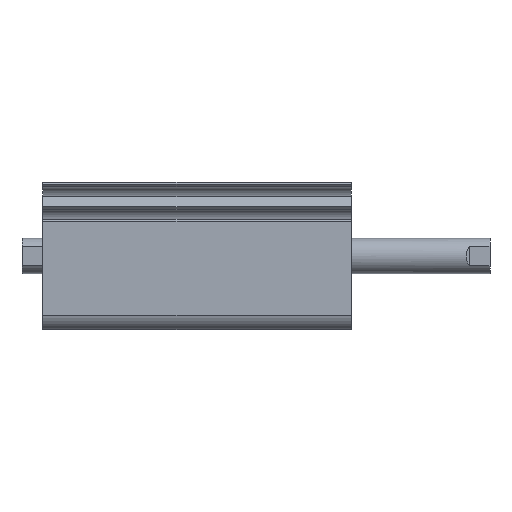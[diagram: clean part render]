
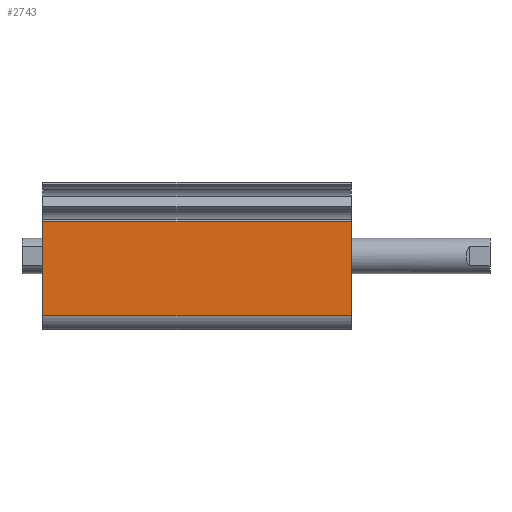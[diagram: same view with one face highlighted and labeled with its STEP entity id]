
A CAD part, top view. The second image highlights one B-rep face of the part: STEP entity #2743.
In plain terms, the highlighted planar face has unit normal (0, 0, 1).
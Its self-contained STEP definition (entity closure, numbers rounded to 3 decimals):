
#45 = DIRECTION ( 'NONE',  ( 0., -1., 0. ) ) ;
#47 = AXIS2_PLACEMENT_3D ( 'NONE', #159, #1156, #2176 ) ;
#159 = CARTESIAN_POINT ( 'NONE',  ( 52.4, 5.885, 12.5 ) ) ;
#162 = EDGE_CURVE ( 'NONE', #2933, #2564, #2795, .T. ) ;
#172 = CARTESIAN_POINT ( 'NONE',  ( 0., -10.069, 12.5 ) ) ;
#231 = CARTESIAN_POINT ( 'NONE',  ( 52.4, -10.069, 12.5 ) ) ;
#314 = EDGE_CURVE ( 'NONE', #2564, #1057, #648, .T. ) ;
#626 = DIRECTION ( 'NONE',  ( 0., -1., 0. ) ) ;
#648 = LINE ( 'NONE', #231, #3051 ) ;
#668 = VERTEX_POINT ( 'NONE', #2821 ) ;
#723 = DIRECTION ( 'NONE',  ( -1., 0., 0. ) ) ;
#749 = VECTOR ( 'NONE', #45, 1000. ) ;
#872 = PLANE ( 'NONE',  #47 ) ;
#885 = VECTOR ( 'NONE', #626, 1000. ) ;
#1057 = VERTEX_POINT ( 'NONE', #172 ) ;
#1058 = CARTESIAN_POINT ( 'NONE',  ( 52.4, -10.069, 12.5 ) ) ;
#1156 = DIRECTION ( 'NONE',  ( 0., 0., -1. ) ) ;
#1215 = LINE ( 'NONE', #2955, #2104 ) ;
#1410 = CARTESIAN_POINT ( 'NONE',  ( 0., 5.885, 12.5 ) ) ;
#1544 = ORIENTED_EDGE ( 'NONE', *, *, #314, .F. ) ;
#1604 = ORIENTED_EDGE ( 'NONE', *, *, #1904, .T. ) ;
#1863 = EDGE_LOOP ( 'NONE', ( #1604, #1544, #2034, #2979 ) ) ;
#1904 = EDGE_CURVE ( 'NONE', #668, #1057, #2361, .T. ) ;
#2034 = ORIENTED_EDGE ( 'NONE', *, *, #162, .F. ) ;
#2104 = VECTOR ( 'NONE', #723, 1000. ) ;
#2176 = DIRECTION ( 'NONE',  ( 0., -1., 0. ) ) ;
#2361 = LINE ( 'NONE', #1410, #885 ) ;
#2564 = VERTEX_POINT ( 'NONE', #1058 ) ;
#2743 = ADVANCED_FACE ( 'NONE', ( #3142 ), #872, .F. ) ;
#2795 = LINE ( 'NONE', #3023, #749 ) ;
#2821 = CARTESIAN_POINT ( 'NONE',  ( 0., 5.885, 12.5 ) ) ;
#2933 = VERTEX_POINT ( 'NONE', #3008 ) ;
#2949 = DIRECTION ( 'NONE',  ( -1., 0., 0. ) ) ;
#2955 = CARTESIAN_POINT ( 'NONE',  ( 52.4, 5.885, 12.5 ) ) ;
#2979 = ORIENTED_EDGE ( 'NONE', *, *, #3044, .T. ) ;
#3008 = CARTESIAN_POINT ( 'NONE',  ( 52.4, 5.885, 12.5 ) ) ;
#3023 = CARTESIAN_POINT ( 'NONE',  ( 52.4, 5.885, 12.5 ) ) ;
#3044 = EDGE_CURVE ( 'NONE', #2933, #668, #1215, .T. ) ;
#3051 = VECTOR ( 'NONE', #2949, 1000. ) ;
#3142 = FACE_OUTER_BOUND ( 'NONE', #1863, .T. ) ;
